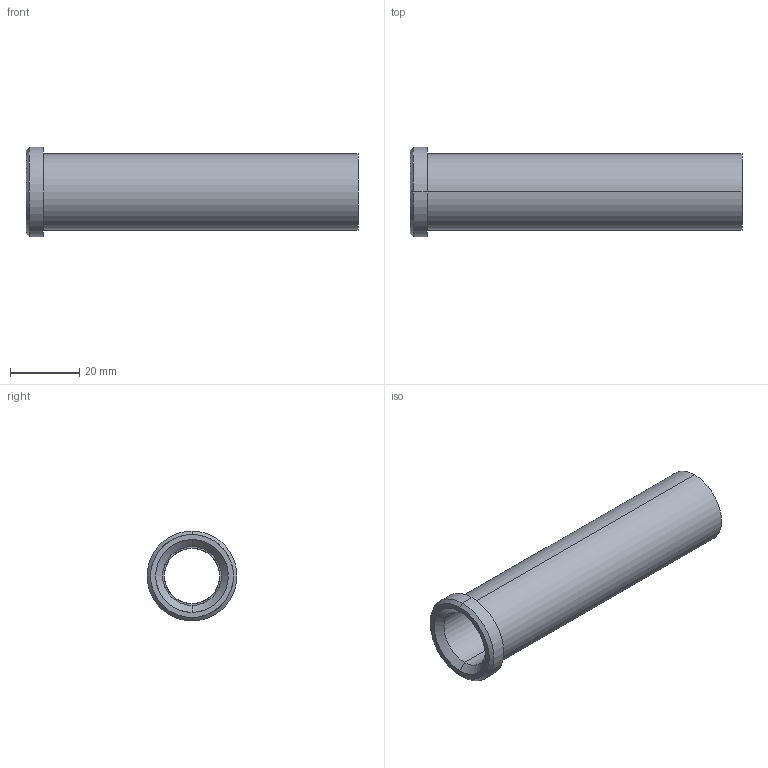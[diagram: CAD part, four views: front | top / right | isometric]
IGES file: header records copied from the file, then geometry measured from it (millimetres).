
Start section: START RECORD GO HERE.
Global section: file name: 353-16X96.igs; native system: DASSAULT SYSTEMES CATIA V5 R20 - www.3ds.com; preprocessor: CATIA Version 5 Release 20 ; author: Utente; organization: NB04-ASUS; date: 20210504.202101; units: millimetre
Bounding box: 96 x 26 x 26 mm (x, y, z)
Surface area: 12256.5 mm2 (no closed solid volume)
Topology: 0 solids, 0 shells, 18 faces, 116 edges, 116 vertices
Faces by surface type: revolution 14, plane 4
